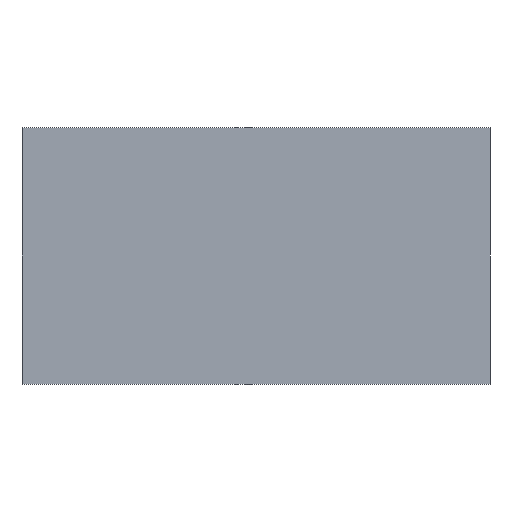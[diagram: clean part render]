
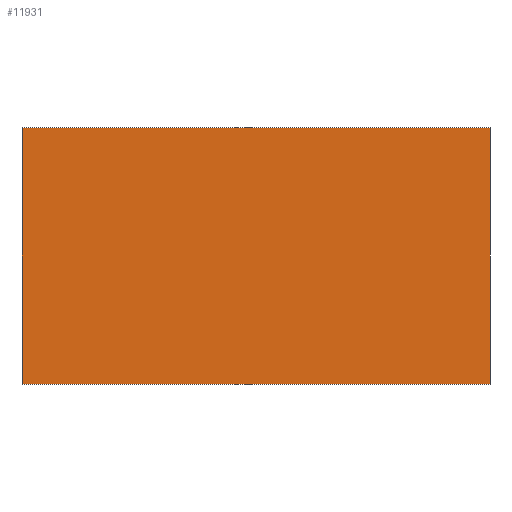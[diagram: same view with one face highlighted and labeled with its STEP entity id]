
A CAD part, front view. The second image highlights one B-rep face of the part: STEP entity #11931.
In plain terms, the highlighted planar face has unit normal (0, -1, 0).
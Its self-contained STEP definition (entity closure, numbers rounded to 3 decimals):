
#4831=DIRECTION('',(-1.,0.,0.));
#4832=VECTOR('',#4831,210.);
#4833=CARTESIAN_POINT('',(145.,-12.,57.5));
#4834=LINE('',#4833,#4832);
#4835=DIRECTION('',(0.,0.,1.));
#4836=VECTOR('',#4835,115.);
#4837=CARTESIAN_POINT('',(145.,-12.,-57.5));
#4838=LINE('',#4837,#4836);
#4839=DIRECTION('',(1.,0.,0.));
#4840=VECTOR('',#4839,210.);
#4841=CARTESIAN_POINT('',(-65.,-12.,-57.5));
#4842=LINE('',#4841,#4840);
#4843=DIRECTION('',(0.,0.,-1.));
#4844=VECTOR('',#4843,115.);
#4845=CARTESIAN_POINT('',(-65.,-12.,57.5));
#4846=LINE('',#4845,#4844);
#9276=CARTESIAN_POINT('',(145.,-12.,57.5));
#9277=CARTESIAN_POINT('',(-65.,-12.,57.5));
#9278=VERTEX_POINT('',#9276);
#9279=VERTEX_POINT('',#9277);
#9280=CARTESIAN_POINT('',(-65.,-12.,-57.5));
#9281=CARTESIAN_POINT('',(145.,-12.,-57.5));
#9282=VERTEX_POINT('',#9280);
#9283=VERTEX_POINT('',#9281);
#11920=CARTESIAN_POINT('',(40.,-12.,0.));
#11921=DIRECTION('',(0.,-1.,0.));
#11922=DIRECTION('',(0.,0.,-1.));
#11923=AXIS2_PLACEMENT_3D('',#11920,#11921,#11922);
#11924=PLANE('',#11923);
#11925=ORIENTED_EDGE('',*,*,#11872,.F.);
#11926=ORIENTED_EDGE('',*,*,#11887,.F.);
#11927=ORIENTED_EDGE('',*,*,#11901,.F.);
#11928=ORIENTED_EDGE('',*,*,#11914,.F.);
#11929=EDGE_LOOP('',(#11925,#11926,#11927,#11928));
#11930=FACE_OUTER_BOUND('',#11929,.F.);
#11931=ADVANCED_FACE('',(#11930),#11924,.T.);
#11872=EDGE_CURVE('',#9278,#9279,#4834,.T.);
#11887=EDGE_CURVE('',#9283,#9278,#4838,.T.);
#11901=EDGE_CURVE('',#9282,#9283,#4842,.T.);
#11914=EDGE_CURVE('',#9279,#9282,#4846,.T.);
